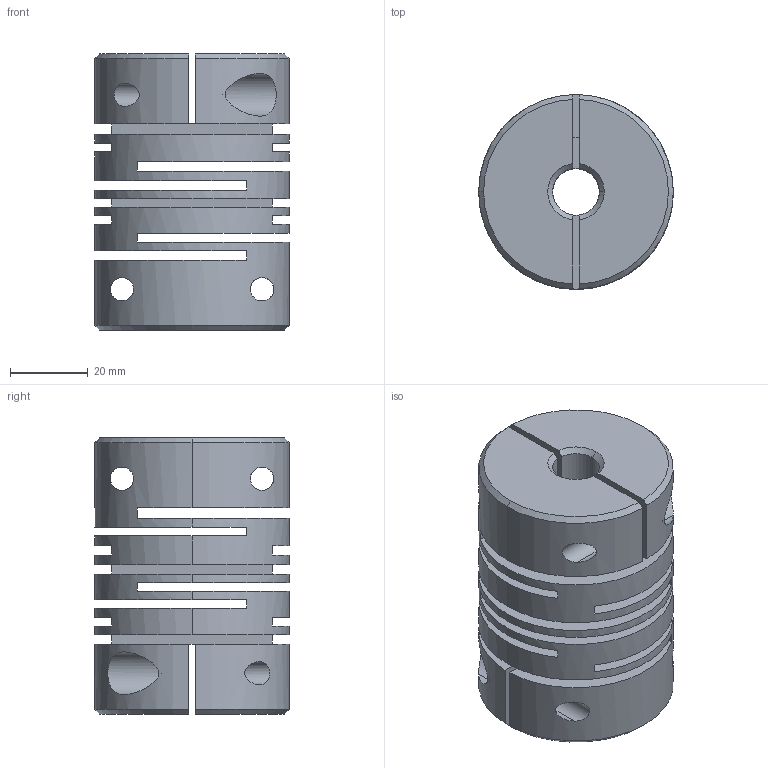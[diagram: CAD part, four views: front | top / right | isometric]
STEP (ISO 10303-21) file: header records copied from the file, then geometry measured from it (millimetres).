
FILE_DESCRIPTION (( 'STEP AP203' ), '1' );
FILE_NAME ('SFCS-50C.STEP', '2009-09-30T15:26:11', ( 'USER' ), ( 'HOME' ), 'SwSTEP 2.0', 'SolidWorks 2007', '' );
FILE_SCHEMA (( 'CONFIG_CONTROL_DESIGN' ));
Length unit declared in the file: millimetre
Products named in the file (1): SFCS-50C
Bounding box: 50 x 50 x 71 mm (x, y, z)
Volume: 93802 mm3; surface area: 44365.3 mm2
Topology: 1 solids, 1 shells, 104 faces, 290 edges, 192 vertices
Faces by surface type: cylinder 50, plane 44, cone 10
Entity records: 4103 total; most frequent: CARTESIAN_POINT 1225, DIRECTION 598, ORIENTED_EDGE 580, EDGE_CURVE 290, AXIS2_PLACEMENT_3D 235, VERTEX_POINT 192, EDGE_LOOP 138, CIRCLE 130
